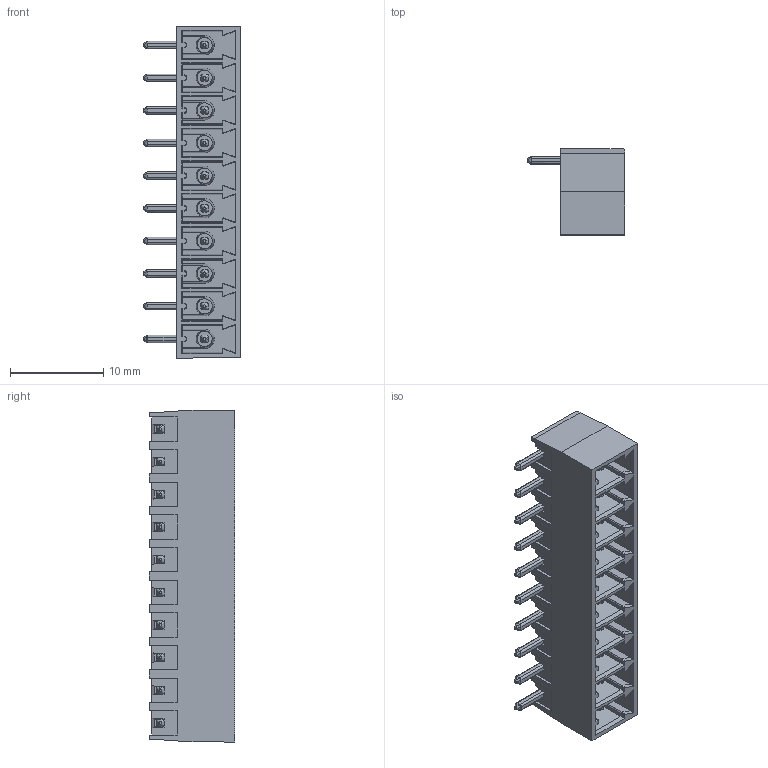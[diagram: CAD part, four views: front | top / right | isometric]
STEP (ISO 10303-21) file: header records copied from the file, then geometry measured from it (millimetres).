
FILE_DESCRIPTION (( 'STEP AP214' ), '1' );
FILE_NAME ('110-M-111-10.STEP', '2007-10-26T00:35:18', ( ' ' ), ( '' ), 'SwSTEP 2.0', 'SolidWorks 2007', '' );
FILE_SCHEMA (( 'AUTOMOTIVE_DESIGN' ));
Products named in the file (1): 110-M-111-10
Bounding box: 10.5 x 9.2 x 35.6 mm (x, y, z)
Volume: 944.8 mm3; surface area: 3317.9 mm2
Topology: 1 solids, 1 shells, 1909 faces, 5338 edges, 3407 vertices
Faces by surface type: plane 1298, cylinder 481, bspline 62, cone 52, sphere 16
Entity records: 64224 total; most frequent: CARTESIAN_POINT 19047, ORIENTED_EDGE 10628, DIRECTION 7500, EDGE_CURVE 5314, VERTEX_POINT 3407, VECTOR 3312, LINE 3312, AXIS2_PLACEMENT_3D 2094
